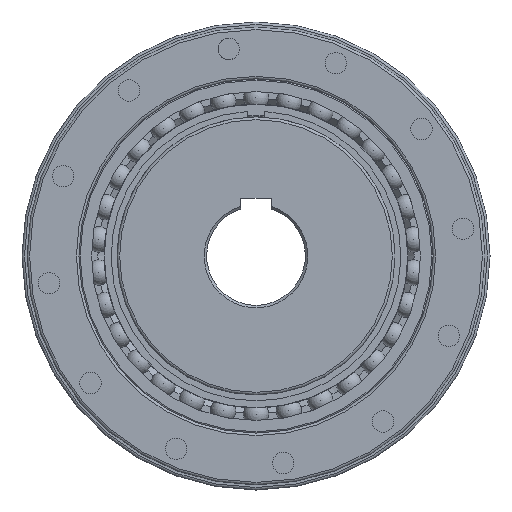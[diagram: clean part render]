
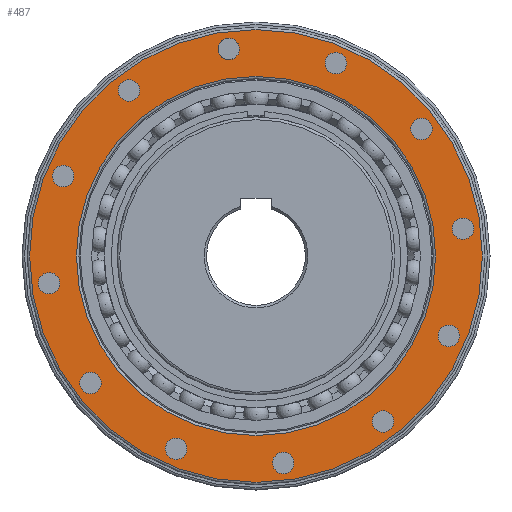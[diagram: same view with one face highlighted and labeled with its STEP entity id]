
A CAD part, left-side view. The second image highlights one B-rep face of the part: STEP entity #487.
In plain terms, the highlighted planar face has unit normal (-1, 0, 0).
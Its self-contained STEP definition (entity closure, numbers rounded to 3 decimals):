
#487 = ADVANCED_FACE( '', ( #1248, #1249, #1250, #1251, #1252, #1253, #1254, #1255, #1256, #1257, #1258, #1259, #1260, #1261 ), #1262, .T. );
#1248 = FACE_OUTER_BOUND( '', #2386, .T. );
#1249 = FACE_BOUND( '', #2387, .T. );
#1250 = FACE_BOUND( '', #2388, .T. );
#1251 = FACE_BOUND( '', #2389, .T. );
#1252 = FACE_BOUND( '', #2390, .T. );
#1253 = FACE_BOUND( '', #2391, .T. );
#1254 = FACE_BOUND( '', #2392, .T. );
#1255 = FACE_BOUND( '', #2393, .T. );
#1256 = FACE_BOUND( '', #2394, .T. );
#1257 = FACE_BOUND( '', #2395, .T. );
#1258 = FACE_BOUND( '', #2396, .T. );
#1259 = FACE_BOUND( '', #2397, .T. );
#1260 = FACE_BOUND( '', #2398, .T. );
#1261 = FACE_BOUND( '', #2399, .T. );
#1262 = PLANE( '', #2400 );
#2386 = EDGE_LOOP( '', ( #3927 ) );
#2387 = EDGE_LOOP( '', ( #3928 ) );
#2388 = EDGE_LOOP( '', ( #3929 ) );
#2389 = EDGE_LOOP( '', ( #3930 ) );
#2390 = EDGE_LOOP( '', ( #3931 ) );
#2391 = EDGE_LOOP( '', ( #3932 ) );
#2392 = EDGE_LOOP( '', ( #3933 ) );
#2393 = EDGE_LOOP( '', ( #3934 ) );
#2394 = EDGE_LOOP( '', ( #3935 ) );
#2395 = EDGE_LOOP( '', ( #3936 ) );
#2396 = EDGE_LOOP( '', ( #3937 ) );
#2397 = EDGE_LOOP( '', ( #3938 ) );
#2398 = EDGE_LOOP( '', ( #3939 ) );
#2399 = EDGE_LOOP( '', ( #3940 ) );
#2400 = AXIS2_PLACEMENT_3D( '', #3941, #3942, #3943 );
#3927 = ORIENTED_EDGE( '', *, *, #6711, .T. );
#3928 = ORIENTED_EDGE( '', *, *, #6712, .T. );
#3929 = ORIENTED_EDGE( '', *, *, #6511, .T. );
#3930 = ORIENTED_EDGE( '', *, *, #6713, .T. );
#3931 = ORIENTED_EDGE( '', *, *, #6714, .T. );
#3932 = ORIENTED_EDGE( '', *, *, #6715, .T. );
#3933 = ORIENTED_EDGE( '', *, *, #6716, .T. );
#3934 = ORIENTED_EDGE( '', *, *, #6717, .T. );
#3935 = ORIENTED_EDGE( '', *, *, #6536, .T. );
#3936 = ORIENTED_EDGE( '', *, *, #6718, .T. );
#3937 = ORIENTED_EDGE( '', *, *, #6719, .T. );
#3938 = ORIENTED_EDGE( '', *, *, #6720, .T. );
#3939 = ORIENTED_EDGE( '', *, *, #6721, .T. );
#3940 = ORIENTED_EDGE( '', *, *, #6722, .T. );
#3941 = CARTESIAN_POINT( '', ( 14.65, 0., 70. ) );
#3942 = DIRECTION( '', ( -1., 0., 0. ) );
#3943 = DIRECTION( '', ( 0., 0., 1. ) );
#6511 = EDGE_CURVE( '', #7884, #7884, #7885, .T. );
#6536 = EDGE_CURVE( '', #7929, #7929, #7930, .T. );
#6711 = EDGE_CURVE( '', #8229, #8229, #8230, .T. );
#6712 = EDGE_CURVE( '', #8231, #8231, #8232, .T. );
#6713 = EDGE_CURVE( '', #8233, #8233, #8234, .T. );
#6714 = EDGE_CURVE( '', #8235, #8235, #8236, .T. );
#6715 = EDGE_CURVE( '', #8237, #8237, #8238, .T. );
#6716 = EDGE_CURVE( '', #8239, #8239, #8240, .T. );
#6717 = EDGE_CURVE( '', #8241, #8241, #8242, .T. );
#6718 = EDGE_CURVE( '', #8243, #8243, #8244, .T. );
#6719 = EDGE_CURVE( '', #8245, #8245, #8246, .T. );
#6720 = EDGE_CURVE( '', #8247, #8247, #8248, .T. );
#6721 = EDGE_CURVE( '', #8249, #8249, #8250, .T. );
#6722 = EDGE_CURVE( '', #8251, #8251, #8252, .T. );
#7884 = VERTEX_POINT( '', #11653 );
#7885 = CIRCLE( '', #11654, 4.25 );
#7929 = VERTEX_POINT( '', #11965 );
#7930 = CIRCLE( '', #11966, 4.25 );
#8229 = VERTEX_POINT( '', #13554 );
#8230 = CIRCLE( '', #13555, 89.5 );
#8231 = VERTEX_POINT( '', #13556 );
#8232 = CIRCLE( '', #13557, 71. );
#8233 = VERTEX_POINT( '', #13558 );
#8234 = CIRCLE( '', #13559, 4.25 );
#8235 = VERTEX_POINT( '', #13560 );
#8236 = CIRCLE( '', #13561, 4.25 );
#8237 = VERTEX_POINT( '', #13562 );
#8238 = CIRCLE( '', #13563, 4.25 );
#8239 = VERTEX_POINT( '', #13564 );
#8240 = CIRCLE( '', #13565, 4.25 );
#8241 = VERTEX_POINT( '', #13566 );
#8242 = CIRCLE( '', #13567, 4.25 );
#8243 = VERTEX_POINT( '', #13568 );
#8244 = CIRCLE( '', #13569, 4.25 );
#8245 = VERTEX_POINT( '', #13570 );
#8246 = CIRCLE( '', #13571, 4.25 );
#8247 = VERTEX_POINT( '', #13572 );
#8248 = CIRCLE( '', #13573, 4.25 );
#8249 = VERTEX_POINT( '', #13574 );
#8250 = CIRCLE( '', #13575, 4.25 );
#8251 = VERTEX_POINT( '', #13576 );
#8252 = CIRCLE( '', #13577, 4.25 );
#11653 = CARTESIAN_POINT( '', ( 14.65, 81.794, -6.518 ) );
#11654 = AXIS2_PLACEMENT_3D( '', #19431, #19432, #19433 );
#11965 = CARTESIAN_POINT( '', ( 14.65, -81.794, 15.018 ) );
#11966 = AXIS2_PLACEMENT_3D( '', #19443, #19444, #19445 );
#13554 = CARTESIAN_POINT( '', ( 14.65, 0., 89.5 ) );
#13555 = AXIS2_PLACEMENT_3D( '', #19615, #19616, #19617 );
#13556 = CARTESIAN_POINT( '', ( 14.65, 0., 71. ) );
#13557 = AXIS2_PLACEMENT_3D( '', #19618, #19619, #19620 );
#13558 = CARTESIAN_POINT( '', ( 14.65, 76.22, 35.821 ) );
#13559 = AXIS2_PLACEMENT_3D( '', #19621, #19622, #19623 );
#13560 = CARTESIAN_POINT( '', ( 14.65, 50.223, 69.702 ) );
#13561 = AXIS2_PLACEMENT_3D( '', #19624, #19625, #19626 );
#13562 = CARTESIAN_POINT( '', ( 14.65, 10.768, 86.044 ) );
#13563 = AXIS2_PLACEMENT_3D( '', #19627, #19628, #19629 );
#13564 = CARTESIAN_POINT( '', ( 14.65, -31.571, 80.47 ) );
#13565 = AXIS2_PLACEMENT_3D( '', #19630, #19631, #19632 );
#13566 = CARTESIAN_POINT( '', ( 14.65, -65.452, 54.473 ) );
#13567 = AXIS2_PLACEMENT_3D( '', #19633, #19634, #19635 );
#13568 = CARTESIAN_POINT( '', ( 14.65, -76.22, -27.321 ) );
#13569 = AXIS2_PLACEMENT_3D( '', #19636, #19637, #19638 );
#13570 = CARTESIAN_POINT( '', ( 14.65, -50.223, -61.202 ) );
#13571 = AXIS2_PLACEMENT_3D( '', #19639, #19640, #19641 );
#13572 = CARTESIAN_POINT( '', ( 14.65, -10.768, -77.544 ) );
#13573 = AXIS2_PLACEMENT_3D( '', #19642, #19643, #19644 );
#13574 = CARTESIAN_POINT( '', ( 14.65, 31.571, -71.97 ) );
#13575 = AXIS2_PLACEMENT_3D( '', #19645, #19646, #19647 );
#13576 = CARTESIAN_POINT( '', ( 14.65, 65.452, -45.973 ) );
#13577 = AXIS2_PLACEMENT_3D( '', #19648, #19649, #19650 );
#19431 = CARTESIAN_POINT( '', ( 14.65, 81.794, -10.768 ) );
#19432 = DIRECTION( '', ( 1., 0., 0. ) );
#19433 = DIRECTION( '', ( 0., 0., 1. ) );
#19443 = CARTESIAN_POINT( '', ( 14.65, -81.794, 10.768 ) );
#19444 = DIRECTION( '', ( 1., 0., 0. ) );
#19445 = DIRECTION( '', ( 0., 0., 1. ) );
#19615 = CARTESIAN_POINT( '', ( 14.65, 0., 0. ) );
#19616 = DIRECTION( '', ( -1., 0., 0. ) );
#19617 = DIRECTION( '', ( 0., 0., 1. ) );
#19618 = CARTESIAN_POINT( '', ( 14.65, 0., 0. ) );
#19619 = DIRECTION( '', ( 1., 0., 0. ) );
#19620 = DIRECTION( '', ( 0., 0., 1. ) );
#19621 = CARTESIAN_POINT( '', ( 14.65, 76.22, 31.571 ) );
#19622 = DIRECTION( '', ( 1., 0., 0. ) );
#19623 = DIRECTION( '', ( 0., 0., 1. ) );
#19624 = CARTESIAN_POINT( '', ( 14.65, 50.223, 65.452 ) );
#19625 = DIRECTION( '', ( 1., 0., 0. ) );
#19626 = DIRECTION( '', ( 0., 0., 1. ) );
#19627 = CARTESIAN_POINT( '', ( 14.65, 10.768, 81.794 ) );
#19628 = DIRECTION( '', ( 1., 0., 0. ) );
#19629 = DIRECTION( '', ( 0., 0., 1. ) );
#19630 = CARTESIAN_POINT( '', ( 14.65, -31.571, 76.22 ) );
#19631 = DIRECTION( '', ( 1., 0., 0. ) );
#19632 = DIRECTION( '', ( 0., 0., 1. ) );
#19633 = CARTESIAN_POINT( '', ( 14.65, -65.452, 50.223 ) );
#19634 = DIRECTION( '', ( 1., 0., 0. ) );
#19635 = DIRECTION( '', ( 0., 0., 1. ) );
#19636 = CARTESIAN_POINT( '', ( 14.65, -76.22, -31.571 ) );
#19637 = DIRECTION( '', ( 1., 0., 0. ) );
#19638 = DIRECTION( '', ( 0., 0., 1. ) );
#19639 = CARTESIAN_POINT( '', ( 14.65, -50.223, -65.452 ) );
#19640 = DIRECTION( '', ( 1., 0., 0. ) );
#19641 = DIRECTION( '', ( 0., 0., 1. ) );
#19642 = CARTESIAN_POINT( '', ( 14.65, -10.768, -81.794 ) );
#19643 = DIRECTION( '', ( 1., 0., 0. ) );
#19644 = DIRECTION( '', ( 0., 0., 1. ) );
#19645 = CARTESIAN_POINT( '', ( 14.65, 31.571, -76.22 ) );
#19646 = DIRECTION( '', ( 1., 0., 0. ) );
#19647 = DIRECTION( '', ( 0., 0., 1. ) );
#19648 = CARTESIAN_POINT( '', ( 14.65, 65.452, -50.223 ) );
#19649 = DIRECTION( '', ( 1., 0., 0. ) );
#19650 = DIRECTION( '', ( 0., 0., 1. ) );
